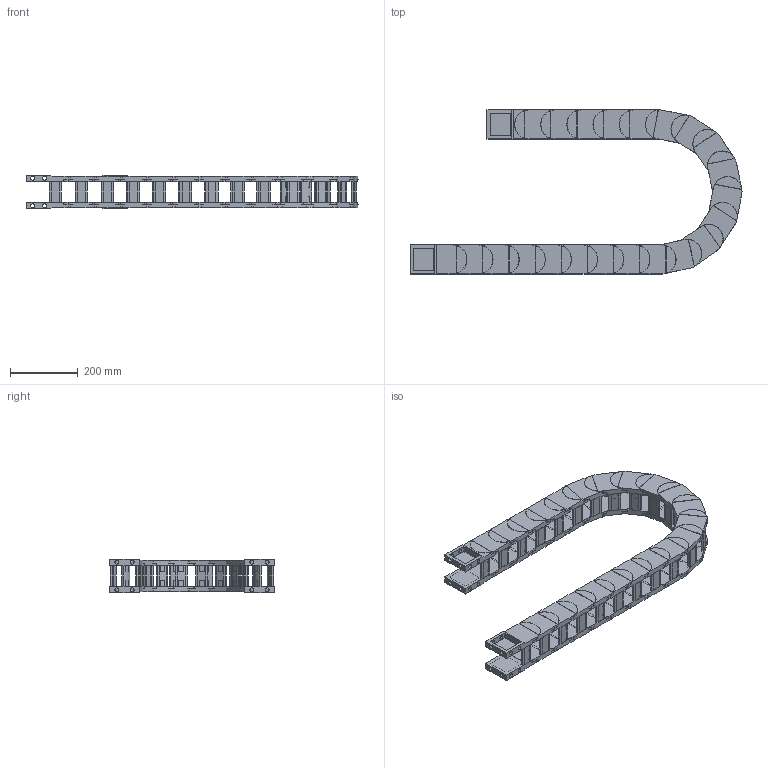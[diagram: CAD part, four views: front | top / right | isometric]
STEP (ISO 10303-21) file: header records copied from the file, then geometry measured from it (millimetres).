
FILE_DESCRIPTION((''),'2;1');
FILE_NAME('HD65-R200-ZPT_ASM','2022-06-18T10:41:04',('admin'),(''),'CREO PARAMETRIC BY PTC INC, 2021164','CREO PARAMETRIC BY PTC INC, 2021164','');
FILE_SCHEMA(('CONFIG_CONTROL_DESIGN','GEOMETRIC_VALIDATION_PROPERTIES_MIM'));
Length unit declared in the file: millimetre
Products named in the file (6): HD65; 65-50HDQSYP; HD65_ASM; H65-T1; H65-T2; HD65-R200-ZPT_ASM
Assembly tree (27 placements, depth 3):
  HD65-R200-ZPT_ASM
    HD65_ASM  x21
      HD65
      65-50HDQSYP
    H65-T1
    H65-T2
    65-50HDQSYP  x2
Bounding box: 983.61 x 485.95 x 100.1 mm (x, y, z)
Volume: 5957936.2 mm3; surface area: 1798627.4 mm2
Topology: 92 solids, 92 shells, 1700 faces, 4478 edges, 3058 vertices
Faces by surface type: plane 1304, cylinder 396
Entity records: 8908 total; most frequent: CARTESIAN_POINT 1330, DIRECTION 1298, ORIENTED_EDGE 1212, EDGE_CURVE 606, AXIS2_PLACEMENT_3D 437, VECTOR 424, LINE 424, VERTEX_POINT 410
